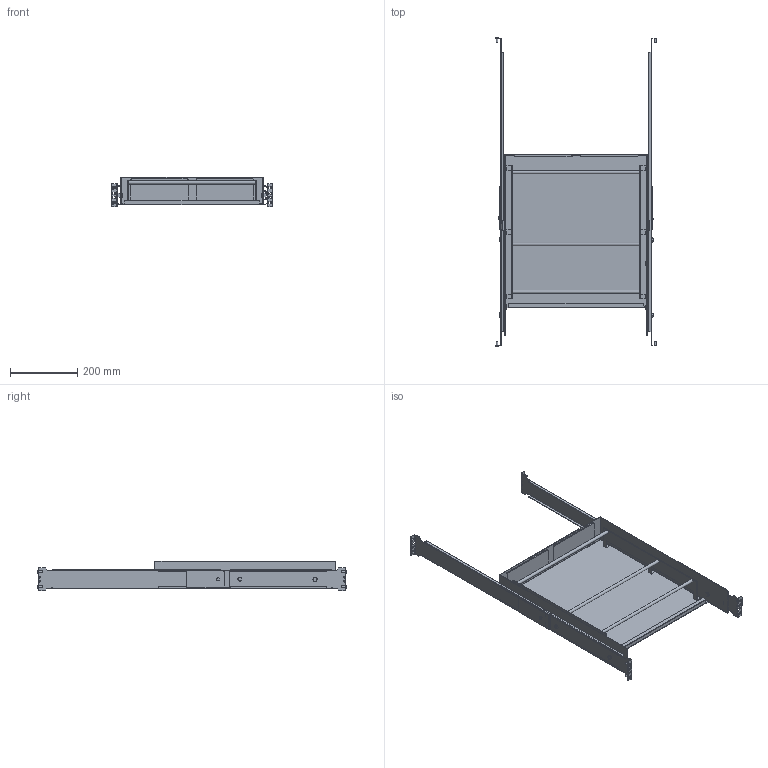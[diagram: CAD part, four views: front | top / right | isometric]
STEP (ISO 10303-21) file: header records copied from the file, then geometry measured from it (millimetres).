
FILE_DESCRIPTION((''),'2;1');
FILE_NAME('C:\old_Drawings\shrinkwrapped website .stp files\561253-STP.stp','2011-05-18T14:38:33',('GaryRobinson'),(''),'Autodesk Inventor 2011','Autodesk Inventor 2011','');
FILE_SCHEMA(('CONFIG_CONTROL_DESIGN'));
Length unit declared in the file: inch
Products named in the file (1): 561253-STP
Bounding box: 479.83 x 921.16 x 89.18 mm (x, y, z)
Surface area: 1068885.3 mm2 (no closed solid volume)
Topology: 0 solids, 73 shells, 145 faces, 1145 edges, 1051 vertices
Faces by surface type: plane 106, cylinder 35, torus 4
Full cylindrical faces by diameter (mm): 4.826 x8, 9.525 x3
Entity records: 10871 total; most frequent: CARTESIAN_POINT 2623, DIRECTION 1529, ORIENTED_EDGE 1211, EDGE_CURVE 1130, VERTEX_POINT 1051, VECTOR 727, LINE 727, AXIS2_PLACEMENT_3D 401
